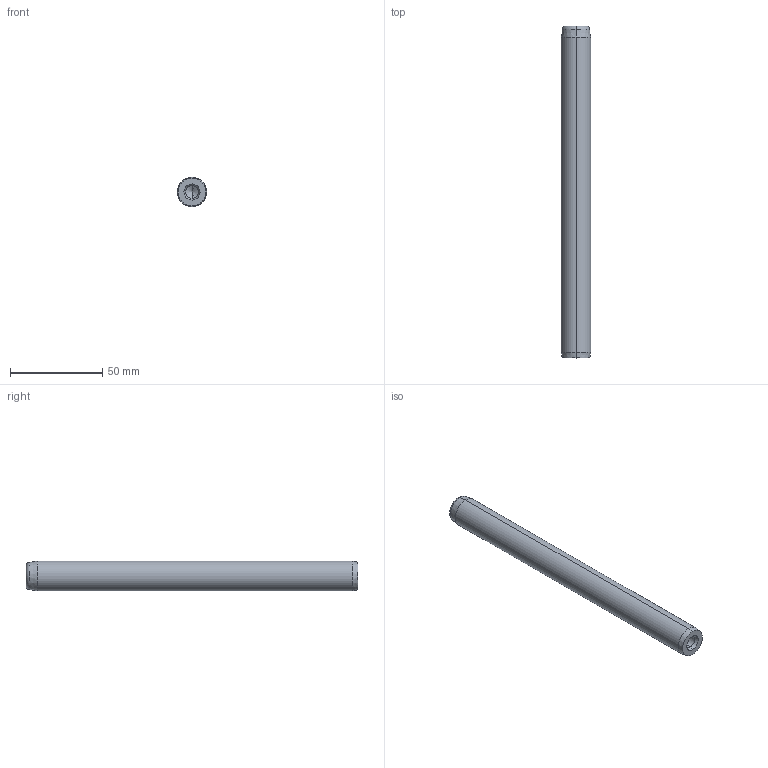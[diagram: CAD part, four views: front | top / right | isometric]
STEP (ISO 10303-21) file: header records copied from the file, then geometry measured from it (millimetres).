
FILE_DESCRIPTION (( 'STEP AP214' ), '1' );
FILE_NAME ('D14_16180.STEP', '2011-12-24T22:38:30', ( 'Dell' ), ( '' ), 'SwSTEP 2.0', 'SolidWorks 2010', '' );
FILE_SCHEMA (( 'AUTOMOTIVE_DESIGN' ));
Length unit declared in the file: metre
Products named in the file (1): D14_16180
Bounding box: 16 x 180 x 16 mm (x, y, z)
Volume: 34045.3 mm3; surface area: 10444 mm2
Topology: 1 solids, 1 shells, 22 faces, 46 edges, 24 vertices
Faces by surface type: cone 12, cylinder 6, torus 2, plane 2
Entity records: 588 total; most frequent: DIRECTION 112, CARTESIAN_POINT 89, ORIENTED_EDGE 84, AXIS2_PLACEMENT_3D 47, EDGE_CURVE 42, CIRCLE 24, VERTEX_POINT 24, EDGE_LOOP 24
